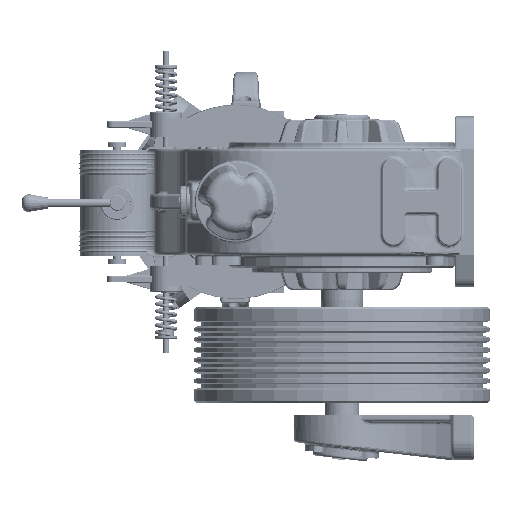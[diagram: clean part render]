
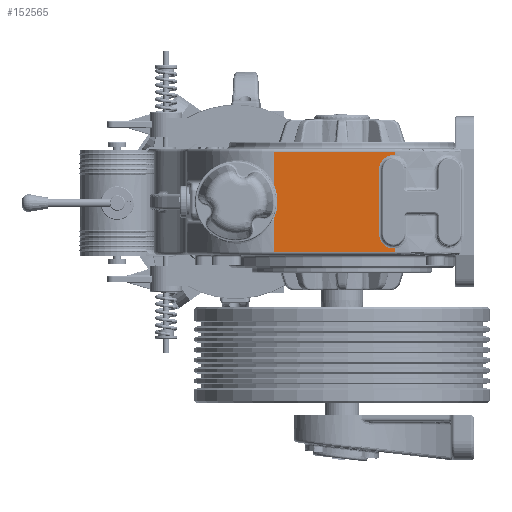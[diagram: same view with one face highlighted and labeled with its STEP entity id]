
A CAD part, left-side view. The second image highlights one B-rep face of the part: STEP entity #152565.
In plain terms, the highlighted planar face has unit normal (-1, 0, 0).
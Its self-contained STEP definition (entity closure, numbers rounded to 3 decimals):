
#3035 = LINE ( 'NONE', #146487, #5147 ) ;
#5147 = VECTOR ( 'NONE', #180462, 1000. ) ;
#6078 = DIRECTION ( 'NONE',  ( 0., 0., 1. ) ) ;
#7354 = DIRECTION ( 'NONE',  ( 0., 1., 0. ) ) ;
#9226 = CIRCLE ( 'NONE', #151322, 65. ) ;
#10864 = EDGE_CURVE ( 'NONE', #125910, #103930, #153855, .T. ) ;
#18616 = CARTESIAN_POINT ( 'NONE',  ( -352.571, -135.228, -72.296 ) ) ;
#20742 = CARTESIAN_POINT ( 'NONE',  ( -352.571, 53.89, -27.489 ) ) ;
#27077 = VECTOR ( 'NONE', #118796, 1000. ) ;
#38800 = LINE ( 'NONE', #72811, #130954 ) ;
#40305 = VECTOR ( 'NONE', #7354, 1000. ) ;
#42181 = EDGE_CURVE ( 'NONE', #89767, #68973, #76756, .T. ) ;
#42322 = CARTESIAN_POINT ( 'NONE',  ( -352.571, -135.228, 77.5 ) ) ;
#43089 = VECTOR ( 'NONE', #6078, 1000. ) ;
#43694 = CARTESIAN_POINT ( 'NONE',  ( -352.571, 53.89, -77.5 ) ) ;
#45026 = VERTEX_POINT ( 'NONE', #196132 ) ;
#45051 = DIRECTION ( 'NONE',  ( 1., 0., 0. ) ) ;
#45947 = CARTESIAN_POINT ( 'NONE',  ( -352.571, 53.89, 27.489 ) ) ;
#47912 = VERTEX_POINT ( 'NONE', #80316 ) ;
#51810 = CARTESIAN_POINT ( 'NONE',  ( -352.571, -135.228, -77.5 ) ) ;
#61042 = PLANE ( 'NONE',  #81358 ) ;
#61315 = EDGE_LOOP ( 'NONE', ( #118851, #181581, #198325, #103705, #70274, #155326, #193769, #147475, #82801, #80327, #186861 ) ) ;
#63340 = EDGE_CURVE ( 'NONE', #134325, #204394, #73300, .T. ) ;
#63530 = CARTESIAN_POINT ( 'NONE',  ( -352.571, -135.228, 72.296 ) ) ;
#68973 = VERTEX_POINT ( 'NONE', #63530 ) ;
#70274 = ORIENTED_EDGE ( 'NONE', *, *, #10864, .F. ) ;
#71034 = CARTESIAN_POINT ( 'NONE',  ( -352.571, -135.228, 82.5 ) ) ;
#72179 = DIRECTION ( 'NONE',  ( 1., 0., 0. ) ) ;
#72811 = CARTESIAN_POINT ( 'NONE',  ( -352.571, 53.89, 82.5 ) ) ;
#73300 = LINE ( 'NONE', #173082, #88598 ) ;
#74237 = EDGE_CURVE ( 'NONE', #143610, #45026, #84726, .T. ) ;
#76756 = LINE ( 'NONE', #112766, #177754 ) ;
#77905 = DIRECTION ( 'NONE',  ( 1., 0., 0. ) ) ;
#80316 = CARTESIAN_POINT ( 'NONE',  ( -352.571, -132.209, -72.5 ) ) ;
#80327 = ORIENTED_EDGE ( 'NONE', *, *, #42181, .F. ) ;
#81358 = AXIS2_PLACEMENT_3D ( 'NONE', #125799, #45051, #174727 ) ;
#82801 = ORIENTED_EDGE ( 'NONE', *, *, #107622, .T. ) ;
#84726 = LINE ( 'NONE', #196271, #43089 ) ;
#88300 = AXIS2_PLACEMENT_3D ( 'NONE', #141669, #77905, #142704 ) ;
#88598 = VECTOR ( 'NONE', #126246, 1000. ) ;
#89767 = VERTEX_POINT ( 'NONE', #98474 ) ;
#90491 = AXIS2_PLACEMENT_3D ( 'NONE', #123085, #72179, #122036 ) ;
#98408 = CIRCLE ( 'NONE', #88300, 22.5 ) ;
#98474 = CARTESIAN_POINT ( 'NONE',  ( -352.571, -135.228, 77.5 ) ) ;
#101584 = EDGE_CURVE ( 'NONE', #179898, #103316, #38800, .T. ) ;
#103316 = VERTEX_POINT ( 'NONE', #43694 ) ;
#103705 = ORIENTED_EDGE ( 'NONE', *, *, #144194, .T. ) ;
#103805 = EDGE_CURVE ( 'NONE', #204394, #179898, #9226, .T. ) ;
#103930 = VERTEX_POINT ( 'NONE', #51810 ) ;
#107622 = EDGE_CURVE ( 'NONE', #45026, #68973, #98408, .T. ) ;
#108819 = DIRECTION ( 'NONE',  ( 0., 0., -1. ) ) ;
#112766 = CARTESIAN_POINT ( 'NONE',  ( -352.571, -135.228, 82.5 ) ) ;
#115576 = DIRECTION ( 'NONE',  ( 0., 0., -1. ) ) ;
#118796 = DIRECTION ( 'NONE',  ( 0., 0., -1. ) ) ;
#118851 = ORIENTED_EDGE ( 'NONE', *, *, #63340, .T. ) ;
#122036 = DIRECTION ( 'NONE',  ( 0., 0., -1. ) ) ;
#123085 = CARTESIAN_POINT ( 'NONE',  ( -352.571, -132.209, -50. ) ) ;
#123902 = CIRCLE ( 'NONE', #201941, 22.5 ) ;
#125559 = DIRECTION ( 'NONE',  ( 0., 0., -1. ) ) ;
#125799 = CARTESIAN_POINT ( 'NONE',  ( -352.571, -135.228, 82.5 ) ) ;
#125910 = VERTEX_POINT ( 'NONE', #18616 ) ;
#126246 = DIRECTION ( 'NONE',  ( 0., 0., -1. ) ) ;
#130954 = VECTOR ( 'NONE', #138636, 1000. ) ;
#131459 = EDGE_CURVE ( 'NONE', #89767, #134325, #170917, .T. ) ;
#134325 = VERTEX_POINT ( 'NONE', #164464 ) ;
#138636 = DIRECTION ( 'NONE',  ( 0., 0., -1. ) ) ;
#141669 = CARTESIAN_POINT ( 'NONE',  ( -352.571, -132.209, 50. ) ) ;
#141767 = CARTESIAN_POINT ( 'NONE',  ( -352.571, -132.209, -50. ) ) ;
#142704 = DIRECTION ( 'NONE',  ( 0., 0., -1. ) ) ;
#143610 = VERTEX_POINT ( 'NONE', #188647 ) ;
#144194 = EDGE_CURVE ( 'NONE', #103316, #103930, #3035, .T. ) ;
#144366 = CARTESIAN_POINT ( 'NONE',  ( -352.571, 112.791, 0. ) ) ;
#146487 = CARTESIAN_POINT ( 'NONE',  ( -352.571, -135.228, -77.5 ) ) ;
#147475 = ORIENTED_EDGE ( 'NONE', *, *, #74237, .T. ) ;
#151322 = AXIS2_PLACEMENT_3D ( 'NONE', #144366, #208114, #115576 ) ;
#152565 = ADVANCED_FACE ( 'NONE', ( #206605 ), #61042, .F. ) ;
#153855 = LINE ( 'NONE', #71034, #27077 ) ;
#155326 = ORIENTED_EDGE ( 'NONE', *, *, #191474, .T. ) ;
#158253 = CIRCLE ( 'NONE', #90491, 22.5 ) ;
#164464 = CARTESIAN_POINT ( 'NONE',  ( -352.571, 53.89, 77.5 ) ) ;
#170917 = LINE ( 'NONE', #42322, #40305 ) ;
#173082 = CARTESIAN_POINT ( 'NONE',  ( -352.571, 53.89, 82.5 ) ) ;
#174727 = DIRECTION ( 'NONE',  ( 0., 0., -1. ) ) ;
#177754 = VECTOR ( 'NONE', #125559, 1000. ) ;
#179898 = VERTEX_POINT ( 'NONE', #20742 ) ;
#180462 = DIRECTION ( 'NONE',  ( 0., -1., 0. ) ) ;
#181581 = ORIENTED_EDGE ( 'NONE', *, *, #103805, .T. ) ;
#186861 = ORIENTED_EDGE ( 'NONE', *, *, #131459, .T. ) ;
#188561 = DIRECTION ( 'NONE',  ( 1., 0., 0. ) ) ;
#188647 = CARTESIAN_POINT ( 'NONE',  ( -352.571, -109.709, -50. ) ) ;
#191474 = EDGE_CURVE ( 'NONE', #125910, #47912, #158253, .T. ) ;
#193769 = ORIENTED_EDGE ( 'NONE', *, *, #206786, .T. ) ;
#196132 = CARTESIAN_POINT ( 'NONE',  ( -352.571, -109.709, 50. ) ) ;
#196271 = CARTESIAN_POINT ( 'NONE',  ( -352.571, -109.709, 50. ) ) ;
#198325 = ORIENTED_EDGE ( 'NONE', *, *, #101584, .T. ) ;
#201941 = AXIS2_PLACEMENT_3D ( 'NONE', #141767, #188561, #108819 ) ;
#204394 = VERTEX_POINT ( 'NONE', #45947 ) ;
#206605 = FACE_OUTER_BOUND ( 'NONE', #61315, .T. ) ;
#206786 = EDGE_CURVE ( 'NONE', #47912, #143610, #123902, .T. ) ;
#208114 = DIRECTION ( 'NONE',  ( 1., 0., 0. ) ) ;
